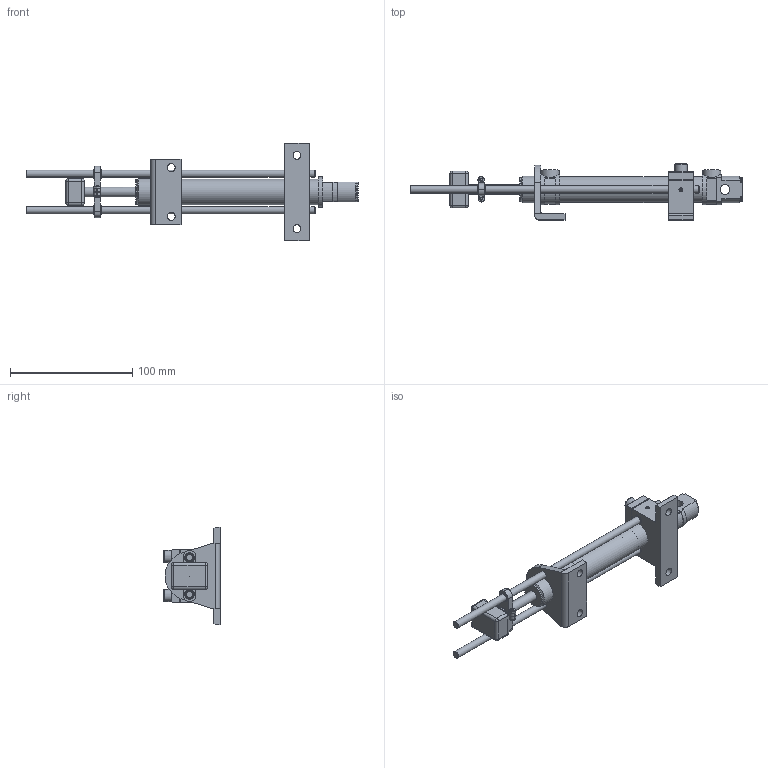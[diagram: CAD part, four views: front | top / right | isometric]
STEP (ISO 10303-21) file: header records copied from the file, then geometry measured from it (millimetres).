
FILE_DESCRIPTION(/* description */ ('Mini-cylinders series ISO 6432 series TP-'),/* implementation_level */ '2;1');
FILE_NAME(/* name */ 'cilindro.stp',/* time_stamp */ '2024-11-27T16:44:18+01:00',/* author */ ('Cadenas PARTsolutions'),/* organization */ ('METALWORK'),/* preprocessor_version */ 'ST-DEVELOPER v20',/* originating_system */ 'Autodesk Inventor 2025',/* authorisation */ '');
FILE_SCHEMA (('AUTOMOTIVE_DESIGN { 1 0 10303 214 3 1 1 }'));
Products named in the file (18): 1103200080CP/0-0-0-A-0-0; ISO_6432_TP_DI20-110-HF; ISO_6432_TP_DI20-110-80-BR; ISO_6432_TP_DI20-110-HR; ISO_6432_TP_DI20-110-PR; ISO_6432_TP_DI20-11080-R; W0950200001-3_0; ISO_6432_TP_DI20-110-PF; anello_stelo; Bush GB/T 18324 C 6 X 8 X 6; barra_circolare_6mm; AS 1427 - M2,5 x 8; AS 1112 - M2,5  Tipo 5; appoggio_cilindro_magazzino copy; AS 1420 - 1973 - M6 x 12; ASME B18.27.1 NA1 - 7/32; punzone; AS 1421 - M3 x 5 Punta a coppa
Assembly tree (23 placements, depth 2):
  1103200080CP/0-0-0-A-0-0
    ISO_6432_TP_DI20-110-HF
    ISO_6432_TP_DI20-110-80-BR
    ISO_6432_TP_DI20-110-HR
    ISO_6432_TP_DI20-110-PR
    ISO_6432_TP_DI20-11080-R
    W0950200001-3_0
    ISO_6432_TP_DI20-110-PF
    anello_stelo
    barra_circolare_6mm  x2
    Bush GB/T 18324 C 6 X 8 X 6  x2
    AS 1427 - M2,5 x 8  x2
    AS 1112 - M2,5  Tipo 5  x2
    appoggio_cilindro_magazzino copy
    AS 1420 - 1973 - M6 x 12  x2
    ASME B18.27.1 NA1 - 7/32  x2
    punzone
    AS 1421 - M3 x 5 Punta a coppa
Bounding box: 272 x 46 x 80 mm (x, y, z)
Volume: 114022.4 mm3; surface area: 67017.3 mm2
Topology: 25 solids, 25 shells, 454 faces, 1092 edges, 705 vertices
Faces by surface type: plane 214, cylinder 130, cone 80, torus 20, sphere 10
Full cylindrical faces by diameter (mm): 0.66 x4, 1.946 x2, 2.013 x2, 2.224 x2, 2.459 x1, 2.5 x2, 2.9 x4, 3 x1, 4.917 x4, 5 x4, 6 x14, 6.4 x2, 6.5 x2, 6.647 x1, 7.2 x1, 8 x8, 8.566 x2, 10 x2, 14.88 x2, 19.8 x1, 20 x4, 21.27 x1, 22 x2, 25 x2
Entity records: 11549 total; most frequent: CARTESIAN_POINT 2433, DIRECTION 1845, ORIENTED_EDGE 1678, EDGE_CURVE 839, AXIS2_PLACEMENT_3D 709, VERTEX_POINT 546, LINE 427, VECTOR 427
